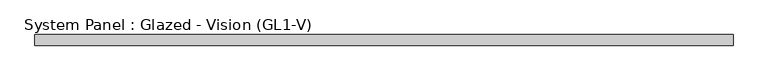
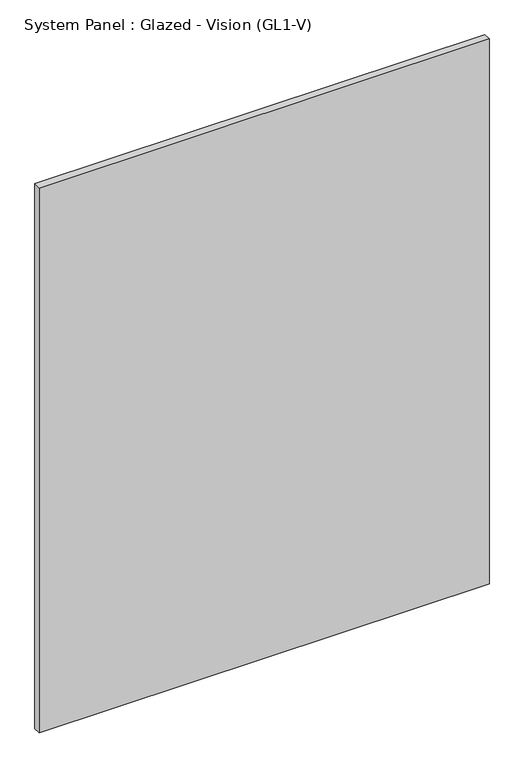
"""IFC4 building model written with IfcOpenShell, lengths in millimetres: plate geometry, System Panel : Glazed - Vision (GL1-V)."""

from ifc_helpers import new_model, si_unit, origin, origin_with_axes, place, context, project, spatial, polyline, outline, extrude, source, transform, mapped, element, save


def system_panel_glazed_vision_gl1_v_cee90109(model_context):
    return source(origin(), model_context, "Body", "SweptSolid", [
        extrude(outline(polyline([(803.275003, 0.0), (-803.275003, 0.0), (-803.275003, 25.4), (803.275003, 25.4), (803.275003, 0.0)])), origin_with_axes(), (0.0, 0.0, 1.0), 2057.4),
    ])


if __name__ == "__main__":
    model = new_model("IFC4")
    model_context = context("Model", 3, world=origin())
    ifc_project = project(units=[si_unit("LENGTHUNIT", "METRE", prefix="MILLI")], contexts=[model_context])
    site = spatial("IfcSite", under=ifc_project)
    building = spatial("IfcBuilding", under=site)
    placement = place(None, origin())
    system_panel_glazed_vision_gl1_v_shape = system_panel_glazed_vision_gl1_v_cee90109(model_context)
    element("IfcPlate", 1, ObjectType="System Panel : Glazed - Vision (GL1-V)", at=placement, inside=building, context=model_context, shape_type="MappedRepresentation", body=[
        mapped(system_panel_glazed_vision_gl1_v_shape, transform((0.0, 0.0, 0.0), x_axis=(1.0, 0.0, 0.0), y_axis=(0.0, 1.0, 0.0), z_axis=(0.0, 0.0, 1.0))),
    ])
    save(model, "model.ifc")
